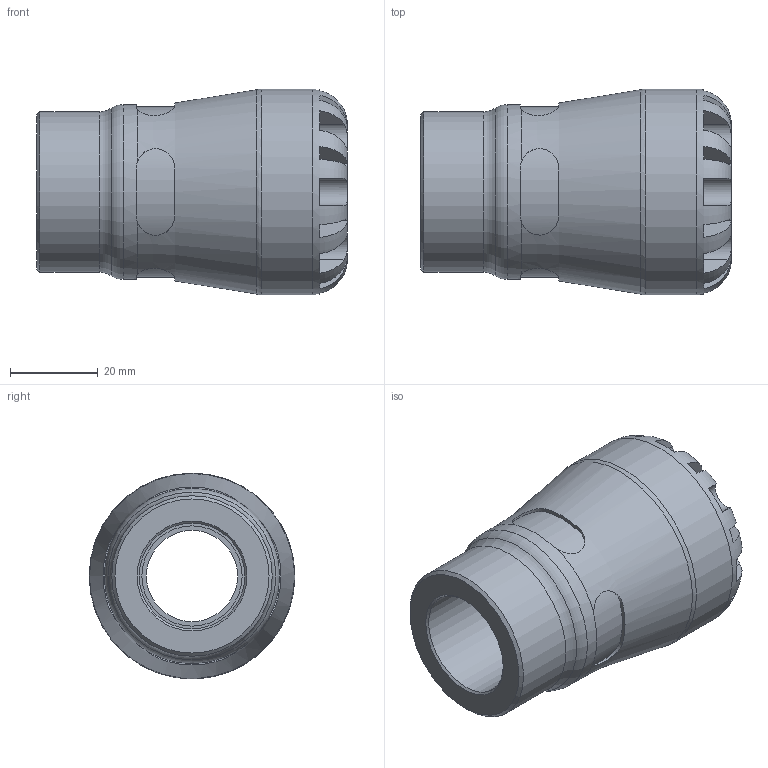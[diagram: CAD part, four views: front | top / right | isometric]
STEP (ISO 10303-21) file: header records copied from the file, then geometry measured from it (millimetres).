
FILE_DESCRIPTION(/* description */ ('PLASSON FEMALE ADAPTOR 25X3/4" SERIES 1'),/* implementation_level */ '2;1');
FILE_NAME(/* name */ 'C:\Dropbox\KIMPROJECTS-Inventor\99-16-3568-Processing\1003\100300025007_190300025007.ipt.step',/* time_stamp */ '2017-01-22T09:49:08+02:00',/* author */ ('KIM'),/* organization */ (''),/* preprocessor_version */ 'ST-DEVELOPER v15.6',/* originating_system */ 'Autodesk Inventor 2015',/* authorisation */ '');
FILE_SCHEMA (('AUTOMOTIVE_DESIGN { 1 0 10303 214 3 1 1 }'));
Length unit declared in the file: millimetre
Products named in the file (1): 100300025007_190300025007
Bounding box: 71 x 47 x 47 mm (x, y, z)
Volume: 61479 mm3; surface area: 17725 mm2
Topology: 1 solids, 1 shells, 104 faces, 265 edges, 166 vertices
Faces by surface type: plane 61, cylinder 35, torus 5, cone 3
Full cylindrical faces by diameter (mm): 20.833 x1, 22.911 x1, 24.117 x1, 25 x1, 36.66 x1, 39.95 x1, 47 x1
Entity records: 3962 total; most frequent: CARTESIAN_POINT 1471, ORIENTED_EDGE 492, DIRECTION 478, EDGE_CURVE 246, AXIS2_PLACEMENT_3D 199, VERTEX_POINT 162, EDGE_LOOP 124, STYLED_ITEM 105
